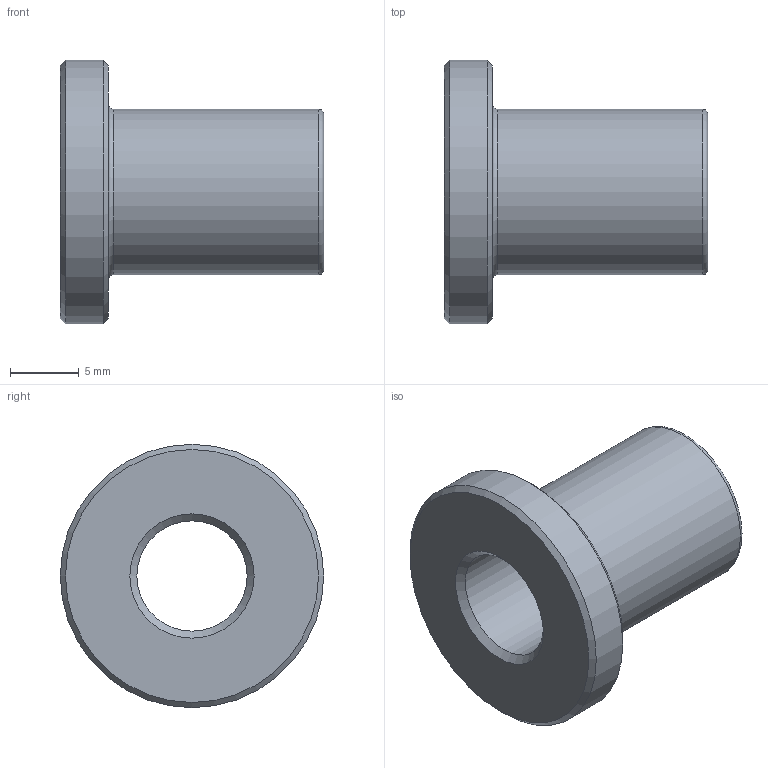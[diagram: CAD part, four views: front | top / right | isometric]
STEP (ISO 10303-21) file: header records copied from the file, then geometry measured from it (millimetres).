
FILE_DESCRIPTION( ( 'STEP AP214' ), '1' );
FILE_NAME( 'p:/temp/worker_40/temp/app_58_02019012316293899654979192d056f_000000_00_00_000000/format_0/M3PWBC.stp', '2019-01-23T15:29:39', ( '' ), ( '' ), ' ', 'PARTsolutions', ' ' );
FILE_SCHEMA( ( 'AUTOMOTIVE_DESIGN { 1 0 10303 214 1 1 1 1 }' ) );
Length unit declared in the file: inch
Products named in the file (1): _M3PWBC
Bounding box: 19.1 x 19.1 x 19.1 mm (x, y, z)
Volume: 1785.5 mm3; surface area: 1695.6 mm2
Topology: 1 solids, 1 shells, 12 faces, 21 edges, 12 vertices
Faces by surface type: cone 4, plane 3, cylinder 3, torus 2
Full cylindrical faces by diameter (mm): 8 x1, 11.99 x1, 19.1 x1
Entity records: 360 total; most frequent: DIRECTION 50, CARTESIAN_POINT 37, AXIS2_PLACEMENT_3D 25, EDGE_LOOP 24, ORIENTED_EDGE 24, FACE_OUTER_BOUND 17, STYLED_ITEM 12, PRESENTATION_STYLE_ASSIGNMENT 12
